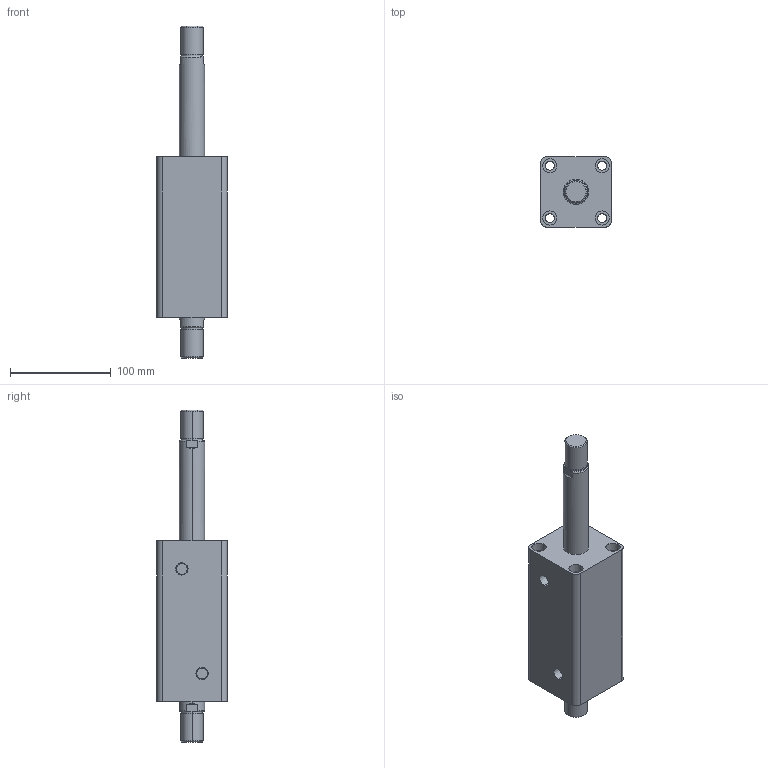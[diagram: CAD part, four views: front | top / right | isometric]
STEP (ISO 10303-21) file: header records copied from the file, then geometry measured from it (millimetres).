
FILE_DESCRIPTION (( 'STEP AP203' ), '1' );
FILE_NAME ('HTB-SW40-90W.STEP', '2019-10-07T09:13:11', ( '微软用户' ), ( '微软中国' ), 'SwSTEP 2.0', 'SolidWorks 2012', '' );
FILE_SCHEMA (( 'CONFIG_CONTROL_DESIGN' ));
Length unit declared in the file: millimetre
Products named in the file (3): HTB-SW40-90W; HTB-SW40-90W活塞杆; HTB-SW40-90掛极
Assembly tree (2 placements, depth 2):
  HTB-SW40-90W
    HTB-SW40-90掛极
    HTB-SW40-90W活塞杆
Bounding box: 70 x 70 x 330 mm (x, y, z)
Volume: 736964.2 mm3; surface area: 119059.9 mm2
Topology: 2 solids, 2 shells, 108 faces, 240 edges, 156 vertices
Faces by surface type: cylinder 52, plane 36, torus 12, cone 8
Entity records: 3449 total; most frequent: CARTESIAN_POINT 629, DIRECTION 586, ORIENTED_EDGE 480, AXIS2_PLACEMENT_3D 249, EDGE_CURVE 240, VERTEX_POINT 156, EDGE_LOOP 138, CIRCLE 136
